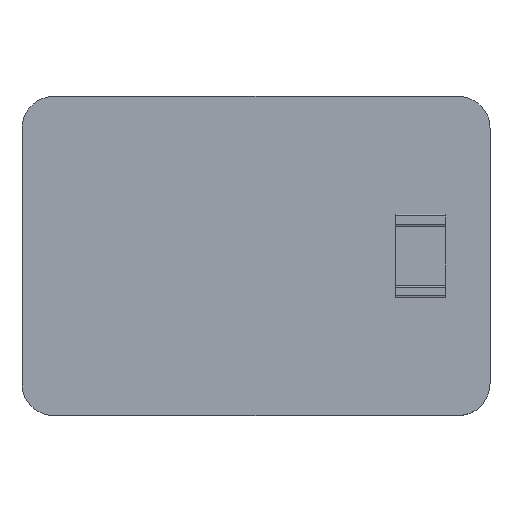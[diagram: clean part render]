
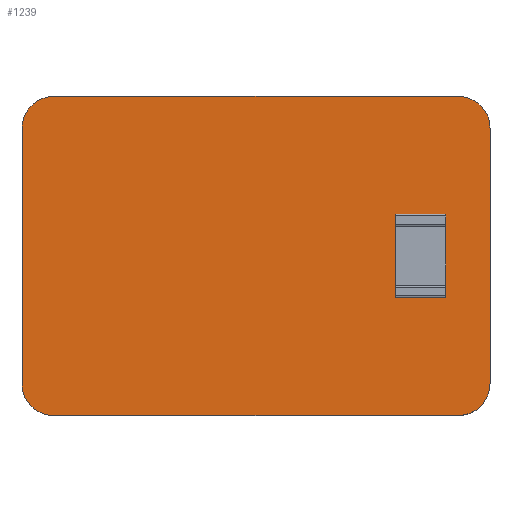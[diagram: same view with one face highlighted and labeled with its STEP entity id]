
A CAD part, top view. The second image highlights one B-rep face of the part: STEP entity #1239.
In plain terms, the highlighted planar face has unit normal (0, 0, 1).
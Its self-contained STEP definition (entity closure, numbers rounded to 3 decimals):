
#878 = VERTEX_POINT('',#879);
#879 = CARTESIAN_POINT('',(155.829,-114.427,1.6));
#885 = EDGE_CURVE('',#878,#886,#888,.T.);
#886 = VERTEX_POINT('',#887);
#887 = CARTESIAN_POINT('',(156.589,-115.103,1.6));
#888 = CIRCLE('',#889,0.76);
#889 = AXIS2_PLACEMENT_3D('',#890,#891,#892);
#890 = CARTESIAN_POINT('',(155.833,-115.187,1.6));
#891 = DIRECTION('',(0.,0.,-1.));
#892 = DIRECTION('',(-0.006,1.,0.));
#918 = EDGE_CURVE('',#886,#919,#921,.T.);
#919 = VERTEX_POINT('',#920);
#920 = CARTESIAN_POINT('',(156.591,-115.189,1.6));
#921 = LINE('',#922,#923);
#922 = CARTESIAN_POINT('',(156.589,-115.103,1.6));
#923 = VECTOR('',#924,1.);
#924 = DIRECTION('',(0.028,-1.,0.));
#949 = EDGE_CURVE('',#919,#950,#952,.T.);
#950 = VERTEX_POINT('',#951);
#951 = CARTESIAN_POINT('',(156.591,-121.285,1.6));
#952 = LINE('',#953,#954);
#953 = CARTESIAN_POINT('',(156.591,-115.189,1.6));
#954 = VECTOR('',#955,1.);
#955 = DIRECTION('',(0.,-1.,0.));
#980 = EDGE_CURVE('',#950,#981,#983,.T.);
#981 = VERTEX_POINT('',#982);
#982 = CARTESIAN_POINT('',(155.915,-122.045,1.6));
#983 = CIRCLE('',#984,0.76);
#984 = AXIS2_PLACEMENT_3D('',#985,#986,#987);
#985 = CARTESIAN_POINT('',(155.831,-121.289,1.6));
#986 = DIRECTION('',(0.,0.,-1.));
#987 = DIRECTION('',(1.,0.006,0.));
#1013 = EDGE_CURVE('',#981,#1014,#1016,.T.);
#1014 = VERTEX_POINT('',#1015);
#1015 = CARTESIAN_POINT('',(155.829,-122.047,1.6));
#1016 = LINE('',#1017,#1018);
#1017 = CARTESIAN_POINT('',(155.915,-122.045,1.6));
#1018 = VECTOR('',#1019,1.);
#1019 = DIRECTION('',(-1.,-0.028,0.));
#1044 = EDGE_CURVE('',#1014,#1045,#1047,.T.);
#1045 = VERTEX_POINT('',#1046);
#1046 = CARTESIAN_POINT('',(146.177,-122.047,1.6));
#1047 = LINE('',#1048,#1049);
#1048 = CARTESIAN_POINT('',(155.829,-122.047,1.6));
#1049 = VECTOR('',#1050,1.);
#1050 = DIRECTION('',(-1.,0.,0.));
#1075 = EDGE_CURVE('',#1045,#1076,#1078,.T.);
#1076 = VERTEX_POINT('',#1077);
#1077 = CARTESIAN_POINT('',(145.417,-121.371,1.6));
#1078 = CIRCLE('',#1079,0.76);
#1079 = AXIS2_PLACEMENT_3D('',#1080,#1081,#1082);
#1080 = CARTESIAN_POINT('',(146.173,-121.287,1.6));
#1081 = DIRECTION('',(0.,0.,-1.));
#1082 = DIRECTION('',(0.006,-1.,0.));
#1108 = EDGE_CURVE('',#1076,#1109,#1111,.T.);
#1109 = VERTEX_POINT('',#1110);
#1110 = CARTESIAN_POINT('',(145.415,-121.285,1.6));
#1111 = LINE('',#1112,#1113);
#1112 = CARTESIAN_POINT('',(145.417,-121.371,1.6));
#1113 = VECTOR('',#1114,1.);
#1114 = DIRECTION('',(-0.028,1.,0.));
#1139 = EDGE_CURVE('',#1109,#1140,#1142,.T.);
#1140 = VERTEX_POINT('',#1141);
#1141 = CARTESIAN_POINT('',(145.415,-115.189,1.6));
#1142 = LINE('',#1143,#1144);
#1143 = CARTESIAN_POINT('',(145.415,-121.285,1.6));
#1144 = VECTOR('',#1145,1.);
#1145 = DIRECTION('',(0.,1.,0.));
#1170 = EDGE_CURVE('',#1140,#1171,#1173,.T.);
#1171 = VERTEX_POINT('',#1172);
#1172 = CARTESIAN_POINT('',(146.177,-114.427,1.6));
#1173 = CIRCLE('',#1174,0.762);
#1174 = AXIS2_PLACEMENT_3D('',#1175,#1176,#1177);
#1175 = CARTESIAN_POINT('',(146.177,-115.189,1.6));
#1176 = DIRECTION('',(0.,0.,-1.));
#1177 = DIRECTION('',(-1.,0.,0.));
#1203 = EDGE_CURVE('',#1171,#878,#1204,.T.);
#1204 = LINE('',#1205,#1206);
#1205 = CARTESIAN_POINT('',(146.177,-114.427,1.6));
#1206 = VECTOR('',#1207,1.);
#1207 = DIRECTION('',(1.,0.,0.));
#1239 = ADVANCED_FACE('',(#1240),#1253,.T.);
#1240 = FACE_BOUND('',#1241,.F.);
#1241 = EDGE_LOOP('',(#1242,#1243,#1244,#1245,#1246,#1247,#1248,#1249,
    #1250,#1251,#1252));
#1242 = ORIENTED_EDGE('',*,*,#885,.T.);
#1243 = ORIENTED_EDGE('',*,*,#918,.T.);
#1244 = ORIENTED_EDGE('',*,*,#949,.T.);
#1245 = ORIENTED_EDGE('',*,*,#980,.T.);
#1246 = ORIENTED_EDGE('',*,*,#1013,.T.);
#1247 = ORIENTED_EDGE('',*,*,#1044,.T.);
#1248 = ORIENTED_EDGE('',*,*,#1075,.T.);
#1249 = ORIENTED_EDGE('',*,*,#1108,.T.);
#1250 = ORIENTED_EDGE('',*,*,#1139,.T.);
#1251 = ORIENTED_EDGE('',*,*,#1170,.T.);
#1252 = ORIENTED_EDGE('',*,*,#1203,.T.);
#1253 = PLANE('',#1254);
#1254 = AXIS2_PLACEMENT_3D('',#1255,#1256,#1257);
#1255 = CARTESIAN_POINT('',(0.,0.,1.6));
#1256 = DIRECTION('',(0.,0.,1.));
#1257 = DIRECTION('',(1.,0.,-0.));
